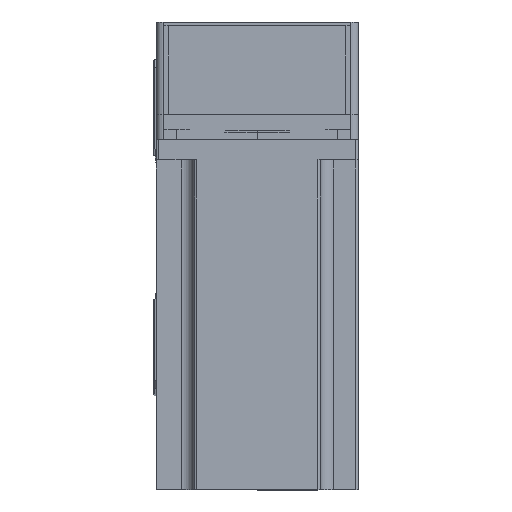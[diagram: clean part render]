
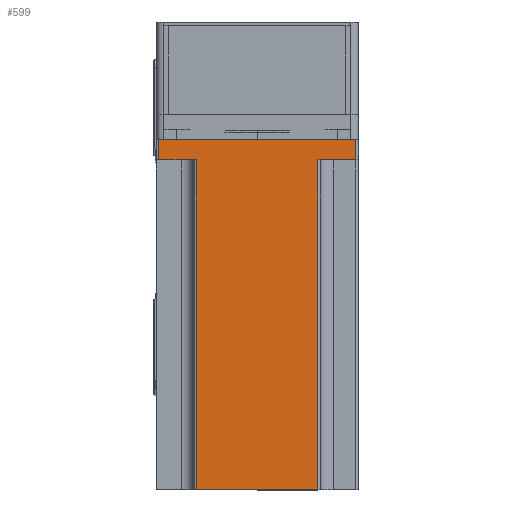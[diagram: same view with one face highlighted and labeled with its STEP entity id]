
A CAD part, top view. The second image highlights one B-rep face of the part: STEP entity #599.
In plain terms, the highlighted planar face has unit normal (0, 0, 1) as drawn and (0, 1, 0) by its records, which use the part's own axes.
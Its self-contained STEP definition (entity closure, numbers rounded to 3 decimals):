
#599 = ADVANCED_FACE ( 'NONE', ( #40964 ), #34409, .F. ) ;
#1086 = ORIENTED_EDGE ( 'NONE', *, *, #38450, .T. ) ;
#2864 = CARTESIAN_POINT ( 'NONE',  ( -39., 40., 0. ) ) ;
#4084 = CARTESIAN_POINT ( 'NONE',  ( -24., 40., 8. ) ) ;
#4102 = VERTEX_POINT ( 'NONE', #36009 ) ;
#5349 = EDGE_CURVE ( 'NONE', #29317, #40117, #18640, .T. ) ;
#6104 = VERTEX_POINT ( 'NONE', #33456 ) ;
#7076 = CARTESIAN_POINT ( 'NONE',  ( -24., 40., 138.3 ) ) ;
#7192 = DIRECTION ( 'NONE',  ( 0., 0., -1. ) ) ;
#7251 = DIRECTION ( 'NONE',  ( -1., 0., 0. ) ) ;
#8280 = LINE ( 'NONE', #27242, #39312 ) ;
#8405 = CARTESIAN_POINT ( 'NONE',  ( 40., 40., 0. ) ) ;
#9612 = DIRECTION ( 'NONE',  ( 0., 0., 1. ) ) ;
#9833 = CARTESIAN_POINT ( 'NONE',  ( 40., 40., 138.3 ) ) ;
#10155 = ORIENTED_EDGE ( 'NONE', *, *, #43507, .F. ) ;
#10434 = DIRECTION ( 'NONE',  ( 1., 0., 0. ) ) ;
#11632 = VECTOR ( 'NONE', #33604, 1000. ) ;
#13800 = AXIS2_PLACEMENT_3D ( 'NONE', #17410, #16200, #10434 ) ;
#13968 = ORIENTED_EDGE ( 'NONE', *, *, #5349, .T. ) ;
#14522 = EDGE_CURVE ( 'NONE', #17562, #6104, #8280, .T. ) ;
#14972 = CARTESIAN_POINT ( 'NONE',  ( 39., 40., 0. ) ) ;
#15846 = CARTESIAN_POINT ( 'NONE',  ( 24., 40., 138.3 ) ) ;
#16200 = DIRECTION ( 'NONE',  ( 0., -1., 0. ) ) ;
#16336 = VERTEX_POINT ( 'NONE', #14972 ) ;
#17410 = CARTESIAN_POINT ( 'NONE',  ( 40., 40., 138.3 ) ) ;
#17562 = VERTEX_POINT ( 'NONE', #2864 ) ;
#17566 = CARTESIAN_POINT ( 'NONE',  ( 24., 40., 138.3 ) ) ;
#17756 = ORIENTED_EDGE ( 'NONE', *, *, #14522, .T. ) ;
#17879 = CARTESIAN_POINT ( 'NONE',  ( 39., 40., 138.3 ) ) ;
#18640 = LINE ( 'NONE', #15846, #52459 ) ;
#20876 = EDGE_CURVE ( 'NONE', #29317, #4102, #38367, .T. ) ;
#21123 = VECTOR ( 'NONE', #7251, 1000. ) ;
#22468 = LINE ( 'NONE', #17879, #47203 ) ;
#22884 = ORIENTED_EDGE ( 'NONE', *, *, #41169, .T. ) ;
#22934 = LINE ( 'NONE', #57021, #33294 ) ;
#23045 = DIRECTION ( 'NONE',  ( -1., 0., 0. ) ) ;
#23626 = VECTOR ( 'NONE', #39257, 1000. ) ;
#24901 = CARTESIAN_POINT ( 'NONE',  ( 25., 40., 8. ) ) ;
#25130 = ORIENTED_EDGE ( 'NONE', *, *, #20876, .F. ) ;
#27242 = CARTESIAN_POINT ( 'NONE',  ( -39., 40., 138.3 ) ) ;
#29317 = VERTEX_POINT ( 'NONE', #17566 ) ;
#29975 = EDGE_CURVE ( 'NONE', #46891, #16336, #22468, .T. ) ;
#30918 = ORIENTED_EDGE ( 'NONE', *, *, #31106, .T. ) ;
#31106 = EDGE_CURVE ( 'NONE', #6104, #50609, #22934, .T. ) ;
#32900 = LINE ( 'NONE', #24901, #21123 ) ;
#33294 = VECTOR ( 'NONE', #35071, 1000. ) ;
#33456 = CARTESIAN_POINT ( 'NONE',  ( -39., 40., 8. ) ) ;
#33604 = DIRECTION ( 'NONE',  ( 0., 0., 1. ) ) ;
#34409 = PLANE ( 'NONE',  #13800 ) ;
#34675 = ORIENTED_EDGE ( 'NONE', *, *, #29975, .T. ) ;
#35071 = DIRECTION ( 'NONE',  ( 1., 0., 0. ) ) ;
#35363 = LINE ( 'NONE', #8405, #23626 ) ;
#36009 = CARTESIAN_POINT ( 'NONE',  ( -24., 40., 138.3 ) ) ;
#38367 = LINE ( 'NONE', #9833, #50080 ) ;
#38391 = CARTESIAN_POINT ( 'NONE',  ( 39., 40., 8. ) ) ;
#38450 = EDGE_CURVE ( 'NONE', #50609, #4102, #57224, .T. ) ;
#39257 = DIRECTION ( 'NONE',  ( -1., 0., 0. ) ) ;
#39312 = VECTOR ( 'NONE', #9612, 1000. ) ;
#40117 = VERTEX_POINT ( 'NONE', #53171 ) ;
#40964 = FACE_OUTER_BOUND ( 'NONE', #51984, .T. ) ;
#41169 = EDGE_CURVE ( 'NONE', #16336, #17562, #35363, .T. ) ;
#43507 = EDGE_CURVE ( 'NONE', #46891, #40117, #32900, .T. ) ;
#44267 = DIRECTION ( 'NONE',  ( 0., 0., -1. ) ) ;
#46891 = VERTEX_POINT ( 'NONE', #38391 ) ;
#47203 = VECTOR ( 'NONE', #44267, 1000. ) ;
#50080 = VECTOR ( 'NONE', #23045, 1000. ) ;
#50609 = VERTEX_POINT ( 'NONE', #4084 ) ;
#51984 = EDGE_LOOP ( 'NONE', ( #30918, #1086, #25130, #13968, #10155, #34675, #22884, #17756 ) ) ;
#52459 = VECTOR ( 'NONE', #7192, 1000. ) ;
#53171 = CARTESIAN_POINT ( 'NONE',  ( 24., 40., 8. ) ) ;
#57021 = CARTESIAN_POINT ( 'NONE',  ( -25., 40., 8. ) ) ;
#57224 = LINE ( 'NONE', #7076, #11632 ) ;
